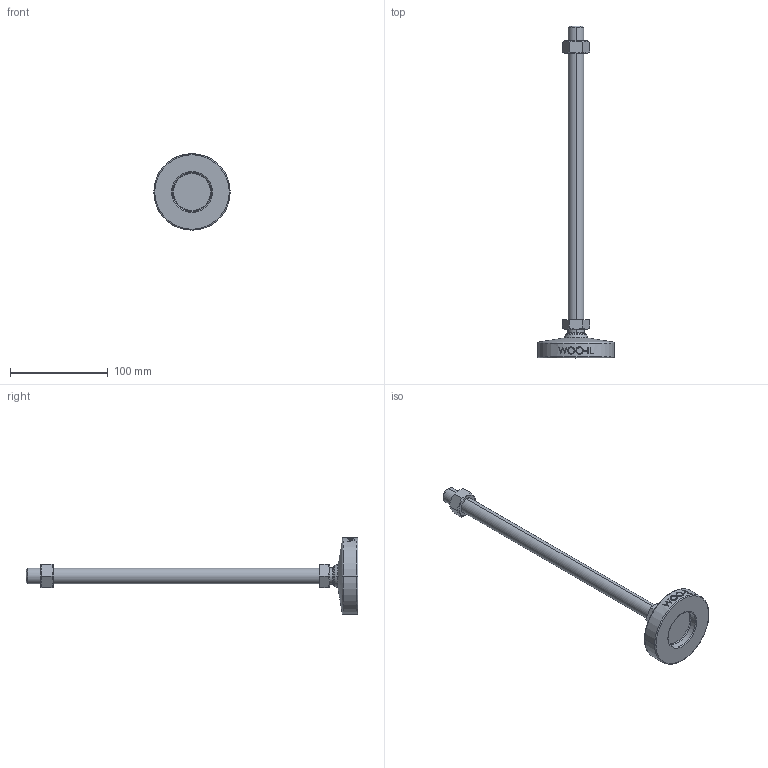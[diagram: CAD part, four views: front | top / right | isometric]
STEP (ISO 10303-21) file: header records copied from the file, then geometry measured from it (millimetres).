
FILE_DESCRIPTION (( 'STEP AP214' ), '1' );
FILE_NAME ('MFN78-M16-300.step', '2021-01-19T06:30:09', ( '' ), ( '' ), 'SwSTEP 2.0', 'SolidWorks 2019', '' );
FILE_SCHEMA (( 'AUTOMOTIVE_DESIGN' ));
Length unit declared in the file: millimetre
Products named in the file (2): MFN78-M16-300
Bounding box: 78 x 339 x 78 mm (x, y, z)
Volume: 148006.5 mm3; surface area: 33279 mm2
Topology: 2 solids, 2 shells, 109 faces, 253 edges, 160 vertices
Faces by surface type: plane 47, cone 18, cylinder 18, bspline 16, torus 8, sphere 2
Entity records: 4621 total; most frequent: CARTESIAN_POINT 2196, ORIENTED_EDGE 506, DIRECTION 461, EDGE_CURVE 253, AXIS2_PLACEMENT_3D 179, VERTEX_POINT 160, EDGE_LOOP 123, FACE_OUTER_BOUND 109
